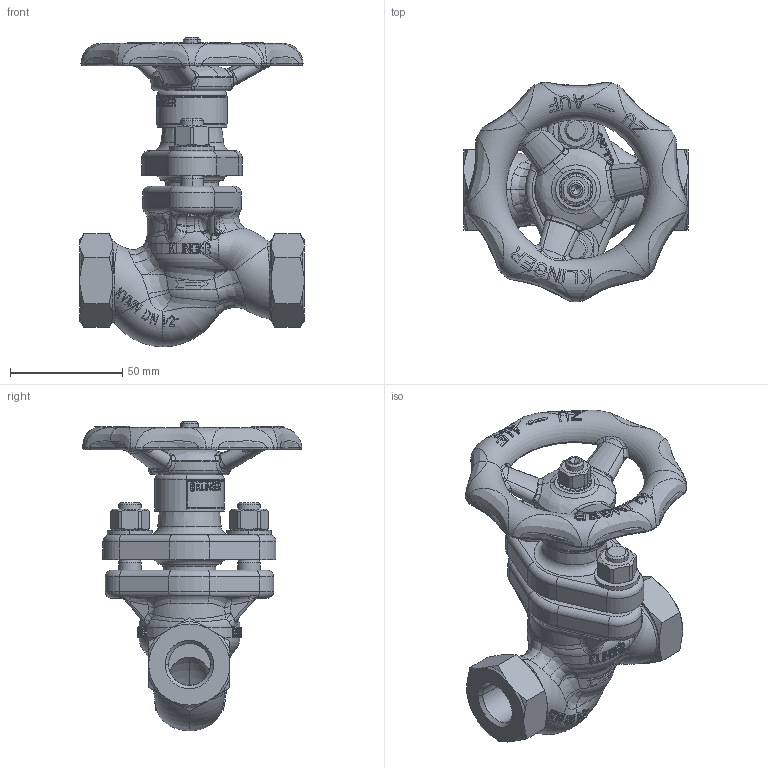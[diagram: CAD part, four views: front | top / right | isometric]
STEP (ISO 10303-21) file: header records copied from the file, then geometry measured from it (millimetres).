
FILE_DESCRIPTION((''),'2;1');
FILE_NAME('KVMN-G12S-----P016DGG_SW0001','2015-07-09T',('jeitlers'),('RAND'),'PRO/ENGINEER BY PARAMETRIC TECHNOLOGY CORPORATION, 2013410','PRO/ENGINEER BY PARAMETRIC TECHNOLOGY CORPORATION, 2013410','');
FILE_SCHEMA(('CONFIG_CONTROL_DESIGN'));
Products named in the file (1): KVMN-G12S-----P016DGG_SW0001
Bounding box: 100 x 97.69 x 137.79 mm (x, y, z)
Volume: 204057.8 mm3; surface area: 72502.6 mm2
Topology: 2 solids, 2 shells, 2427 faces, 6545 edges, 4162 vertices
Faces by surface type: plane 1403, bspline 541, cylinder 255, torus 130, cone 96, sphere 2
Entity records: 145128 total; most frequent: CARTESIAN_POINT 90873, ORIENTED_EDGE 13078, DIRECTION 8671, EDGE_CURVE 6539, VERTEX_POINT 4162, AXIS2_PLACEMENT_3D 3023, B_SPLINE_CURVE_WITH_KNOTS 2777, VECTOR 2625
